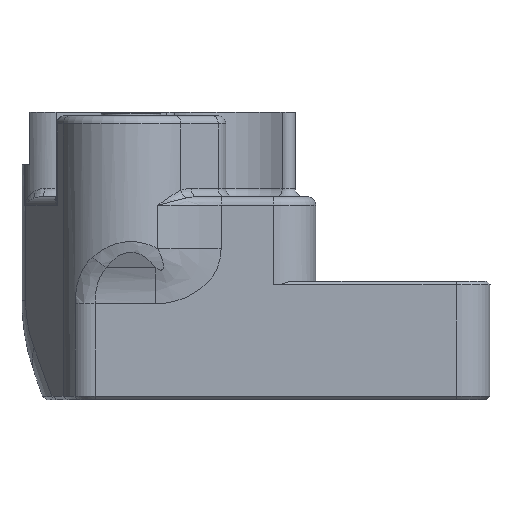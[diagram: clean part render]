
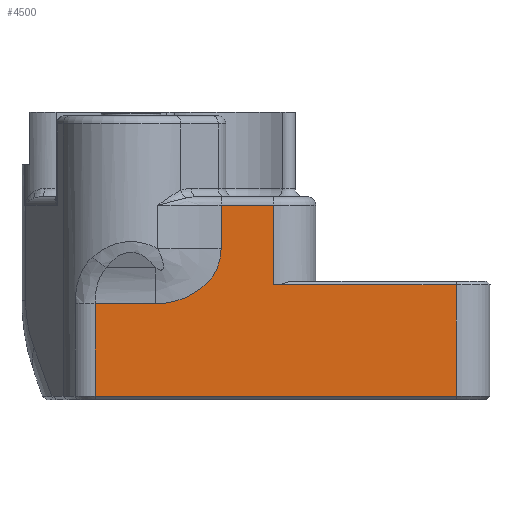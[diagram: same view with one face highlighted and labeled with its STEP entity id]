
A CAD part, front view. The second image highlights one B-rep face of the part: STEP entity #4500.
In plain terms, the highlighted planar face has unit normal (0, -1, 0).
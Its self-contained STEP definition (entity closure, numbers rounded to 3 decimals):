
#153=PLANE('',#4884);
#545=FACE_OUTER_BOUND('',#825,.T.);
#825=EDGE_LOOP('',(#3695,#3696,#3697,#3698,#3699,#3700,#3701,#3702,#3703));
#1045=B_SPLINE_CURVE_WITH_KNOTS('',3,(#16200,#16201,#16202,#16203,#16204,
#16205,#16206,#16207,#16208),.UNSPECIFIED.,.F.,.F.,(4,1,1,1,1,1,4),(-1.,
-0.857,-0.571,-0.429,-0.286,
-0.143,0.),.UNSPECIFIED.);
#1269=LINE('',#15568,#1663);
#1272=LINE('',#15575,#1666);
#1293=LINE('',#15647,#1687);
#1314=LINE('',#16158,#1708);
#1322=LINE('',#16195,#1716);
#1323=LINE('',#16198,#1717);
#1324=LINE('',#16210,#1718);
#1325=LINE('',#16211,#1719);
#1663=VECTOR('',#5548,10.);
#1666=VECTOR('',#5555,10.);
#1687=VECTOR('',#5626,10.);
#1708=VECTOR('',#5777,10.);
#1716=VECTOR('',#5807,5.);
#1717=VECTOR('',#5810,10.);
#1718=VECTOR('',#5811,10.);
#1719=VECTOR('',#5812,10.);
#2021=VERTEX_POINT('',#15424);
#2083=VERTEX_POINT('',#15567);
#2085=VERTEX_POINT('',#15573);
#2111=VERTEX_POINT('',#15645);
#2170=VERTEX_POINT('',#16152);
#2171=VERTEX_POINT('',#16156);
#2178=VERTEX_POINT('',#16197);
#2179=VERTEX_POINT('',#16199);
#2180=VERTEX_POINT('',#16209);
#2585=EDGE_CURVE('',#2021,#2083,#1269,.T.);
#2589=EDGE_CURVE('',#2085,#2021,#1272,.T.);
#2625=EDGE_CURVE('',#2085,#2111,#1293,.T.);
#2714=EDGE_CURVE('',#2170,#2171,#1314,.T.);
#2729=EDGE_CURVE('',#2111,#2171,#1322,.T.);
#2730=EDGE_CURVE('',#2178,#2170,#1323,.T.);
#2731=EDGE_CURVE('',#2178,#2179,#1045,.T.);
#2732=EDGE_CURVE('',#2179,#2180,#1324,.T.);
#2733=EDGE_CURVE('',#2180,#2083,#1325,.T.);
#3695=ORIENTED_EDGE('',*,*,#2589,.F.);
#3696=ORIENTED_EDGE('',*,*,#2625,.T.);
#3697=ORIENTED_EDGE('',*,*,#2729,.T.);
#3698=ORIENTED_EDGE('',*,*,#2714,.F.);
#3699=ORIENTED_EDGE('',*,*,#2730,.F.);
#3700=ORIENTED_EDGE('',*,*,#2731,.T.);
#3701=ORIENTED_EDGE('',*,*,#2732,.T.);
#3702=ORIENTED_EDGE('',*,*,#2733,.T.);
#3703=ORIENTED_EDGE('',*,*,#2585,.F.);
#4500=ADVANCED_FACE('',(#545),#153,.F.);
#4884=AXIS2_PLACEMENT_3D('',#16196,#5808,#5809);
#5548=DIRECTION('',(-1.,0.,0.));
#5555=DIRECTION('',(0.,0.,-1.));
#5626=DIRECTION('',(-1.,0.,0.));
#5777=DIRECTION('',(1.,0.,0.));
#5807=DIRECTION('',(0.,0.,1.));
#5808=DIRECTION('center_axis',(0.,1.,0.));
#5809=DIRECTION('ref_axis',(1.,0.,0.));
#5810=DIRECTION('',(0.,0.,1.));
#5811=DIRECTION('',(-1.,0.,0.));
#5812=DIRECTION('',(0.,0.,-1.));
#15424=CARTESIAN_POINT('',(328.3,147.15,44.1));
#15567=CARTESIAN_POINT('',(285.629,147.15,44.1));
#15568=CARTESIAN_POINT('',(292.641,147.15,44.1));
#15573=CARTESIAN_POINT('',(328.3,147.15,57.3));
#15575=CARTESIAN_POINT('',(328.3,147.15,60.7));
#15645=CARTESIAN_POINT('',(306.7,147.15,57.3));
#15647=CARTESIAN_POINT('',(307.911,147.15,57.3));
#16152=CARTESIAN_POINT('',(300.524,147.15,66.7));
#16156=CARTESIAN_POINT('',(306.7,147.15,66.7));
#16158=CARTESIAN_POINT('',(299.288,147.15,66.7));
#16195=CARTESIAN_POINT('',(306.7,147.15,77.7));
#16196=CARTESIAN_POINT('Origin',(295.402,147.15,77.7));
#16197=CARTESIAN_POINT('',(300.524,147.15,61.56));
#16198=CARTESIAN_POINT('',(300.524,147.15,67.3));
#16199=CARTESIAN_POINT('',(292.792,147.15,55.083));
#16200=CARTESIAN_POINT('Ctrl Pts',(300.524,147.15,61.56));
#16201=CARTESIAN_POINT('Ctrl Pts',(300.524,147.15,60.884));
#16202=CARTESIAN_POINT('Ctrl Pts',(300.178,147.15,59.028));
#16203=CARTESIAN_POINT('Ctrl Pts',(299.026,147.15,57.538));
#16204=CARTESIAN_POINT('Ctrl Pts',(297.655,147.15,56.503));
#16205=CARTESIAN_POINT('Ctrl Pts',(296.377,147.15,55.763));
#16206=CARTESIAN_POINT('Ctrl Pts',(294.755,147.15,55.185));
#16207=CARTESIAN_POINT('Ctrl Pts',(293.468,147.15,55.083));
#16208=CARTESIAN_POINT('Ctrl Pts',(292.792,147.15,55.083));
#16209=CARTESIAN_POINT('',(285.629,147.15,55.083));
#16210=CARTESIAN_POINT('',(292.641,147.15,55.083));
#16211=CARTESIAN_POINT('',(285.629,147.15,77.7));
